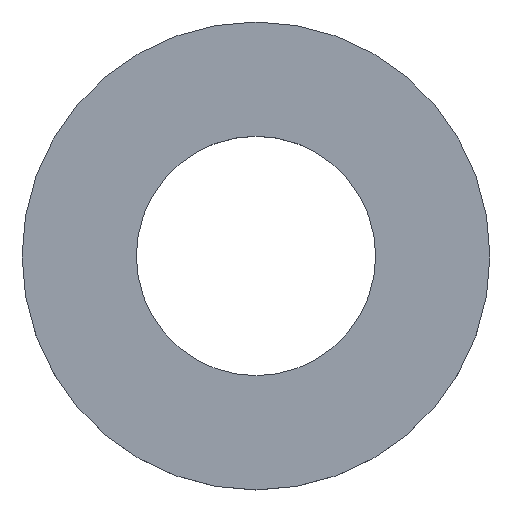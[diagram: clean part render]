
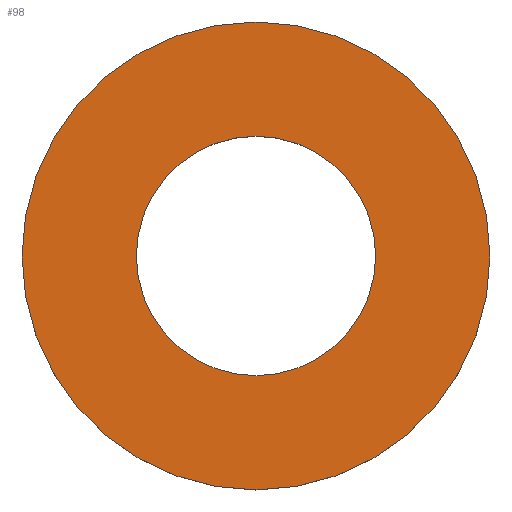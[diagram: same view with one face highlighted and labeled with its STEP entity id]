
A CAD part, top view. The second image highlights one B-rep face of the part: STEP entity #98.
In plain terms, the highlighted planar face has unit normal (0, 0, 1).
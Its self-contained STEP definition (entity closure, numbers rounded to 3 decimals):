
#3 = CARTESIAN_POINT ( 'NONE',  ( 0., 0., 0.3 ) ) ;
#5 = DIRECTION ( 'NONE',  ( 0., 0., 1. ) ) ;
#7 = CIRCLE ( 'NONE', #91, 1.1 ) ;
#18 = FACE_OUTER_BOUND ( 'NONE', #115, .T. ) ;
#21 = ORIENTED_EDGE ( 'NONE', *, *, #52, .T. ) ;
#24 = CARTESIAN_POINT ( 'NONE',  ( 0., 0., 0.3 ) ) ;
#35 = PLANE ( 'NONE',  #134 ) ;
#39 = VERTEX_POINT ( 'NONE', #50 ) ;
#41 = DIRECTION ( 'NONE',  ( 1., 0., 0. ) ) ;
#43 = EDGE_CURVE ( 'NONE', #162, #39, #67, .T. ) ;
#50 = CARTESIAN_POINT ( 'NONE',  ( -1.1, 0., 0.3 ) ) ;
#52 = EDGE_CURVE ( 'NONE', #182, #68, #193, .T. ) ;
#61 = DIRECTION ( 'NONE',  ( 0., 0., 1. ) ) ;
#67 = CIRCLE ( 'NONE', #151, 1.1 ) ;
#68 = VERTEX_POINT ( 'NONE', #143 ) ;
#71 = ORIENTED_EDGE ( 'NONE', *, *, #117, .F. ) ;
#73 = AXIS2_PLACEMENT_3D ( 'NONE', #130, #5, #77 ) ;
#76 = EDGE_CURVE ( 'NONE', #68, #182, #112, .T. ) ;
#77 = DIRECTION ( 'NONE',  ( 1., 0., 0. ) ) ;
#91 = AXIS2_PLACEMENT_3D ( 'NONE', #173, #61, #148 ) ;
#98 = ADVANCED_FACE ( 'NONE', ( #18, #111 ), #35, .T. ) ;
#99 = ORIENTED_EDGE ( 'NONE', *, *, #43, .F. ) ;
#102 = DIRECTION ( 'NONE',  ( 0., 0., 1. ) ) ;
#107 = CARTESIAN_POINT ( 'NONE',  ( 1.1, 0., 0.3 ) ) ;
#111 = FACE_BOUND ( 'NONE', #178, .T. ) ;
#112 = CIRCLE ( 'NONE', #73, 2.15 ) ;
#115 = EDGE_LOOP ( 'NONE', ( #166, #21 ) ) ;
#117 = EDGE_CURVE ( 'NONE', #39, #162, #7, .T. ) ;
#130 = CARTESIAN_POINT ( 'NONE',  ( 0., 0., 0.3 ) ) ;
#134 = AXIS2_PLACEMENT_3D ( 'NONE', #3, #135, #191 ) ;
#135 = DIRECTION ( 'NONE',  ( 0., 0., 1. ) ) ;
#143 = CARTESIAN_POINT ( 'NONE',  ( -2.15, 0., 0.3 ) ) ;
#148 = DIRECTION ( 'NONE',  ( 1., 0., 0. ) ) ;
#151 = AXIS2_PLACEMENT_3D ( 'NONE', #183, #165, #41 ) ;
#153 = DIRECTION ( 'NONE',  ( 1., 0., 0. ) ) ;
#157 = AXIS2_PLACEMENT_3D ( 'NONE', #24, #102, #153 ) ;
#162 = VERTEX_POINT ( 'NONE', #107 ) ;
#165 = DIRECTION ( 'NONE',  ( 0., 0., 1. ) ) ;
#166 = ORIENTED_EDGE ( 'NONE', *, *, #76, .T. ) ;
#171 = CARTESIAN_POINT ( 'NONE',  ( 2.15, 0., 0.3 ) ) ;
#173 = CARTESIAN_POINT ( 'NONE',  ( 0., 0., 0.3 ) ) ;
#178 = EDGE_LOOP ( 'NONE', ( #71, #99 ) ) ;
#182 = VERTEX_POINT ( 'NONE', #171 ) ;
#183 = CARTESIAN_POINT ( 'NONE',  ( 0., 0., 0.3 ) ) ;
#191 = DIRECTION ( 'NONE',  ( 1., 0., 0. ) ) ;
#193 = CIRCLE ( 'NONE', #157, 2.15 ) ;
